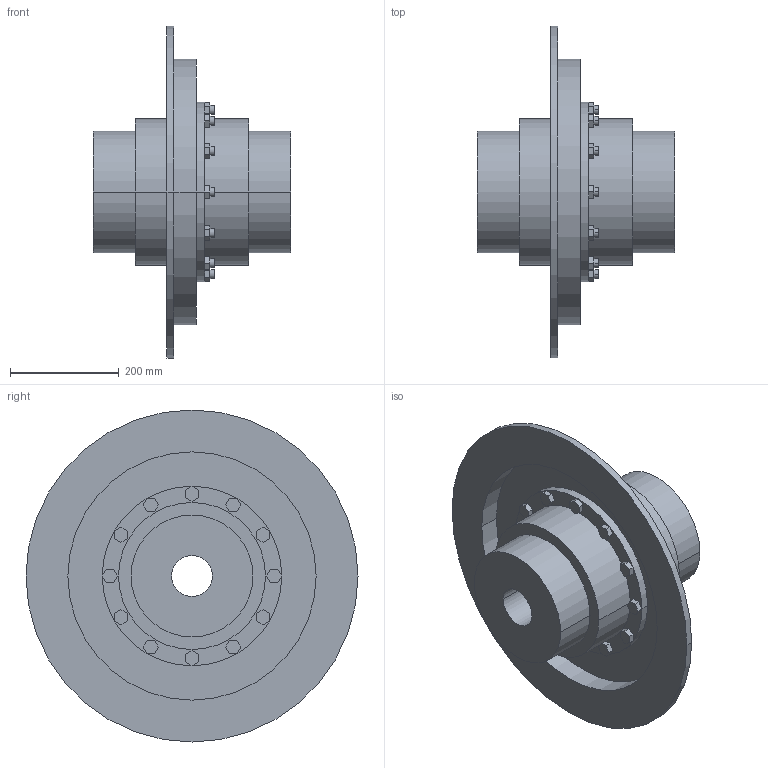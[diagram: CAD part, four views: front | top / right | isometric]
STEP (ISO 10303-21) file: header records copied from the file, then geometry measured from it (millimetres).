
FILE_DESCRIPTION((''),'2;1');
FILE_NAME('A19126600-0_ASM','2018-11-13T',('AB_Roschiwal'),('RENK AG'),'PRO/ENGINEER BY PARAMETRIC TECHNOLOGY CORPORATION, 2015440','PRO/ENGINEER BY PARAMETRIC TECHNOLOGY CORPORATION, 2015440','');
FILE_SCHEMA(('CONFIG_CONTROL_DESIGN'));
Length unit declared in the file: millimetre
Products named in the file (4): LBKT140_GEHAEUSE; LBKT140_NABE; LBKT140_BREMSSCHEIBE; A19126600-0_ASM
Assembly tree (4 placements, depth 2):
  A19126600-0_ASM
    LBKT140_GEHAEUSE
    LBKT140_NABE  x2
    LBKT140_BREMSSCHEIBE
Bounding box: 362 x 610 x 610 mm (x, y, z)
Volume: 20138974.4 mm3; surface area: 1648289.1 mm2
Topology: 4 solids, 4 shells, 294 faces, 708 edges, 472 vertices
Faces by surface type: plane 202, cylinder 92
Entity records: 8412 total; most frequent: DIRECTION 1432, CARTESIAN_POINT 1430, ORIENTED_EDGE 1368, EDGE_CURVE 684, VECTOR 516, LINE 516, AXIS2_PLACEMENT_3D 458, VERTEX_POINT 456
